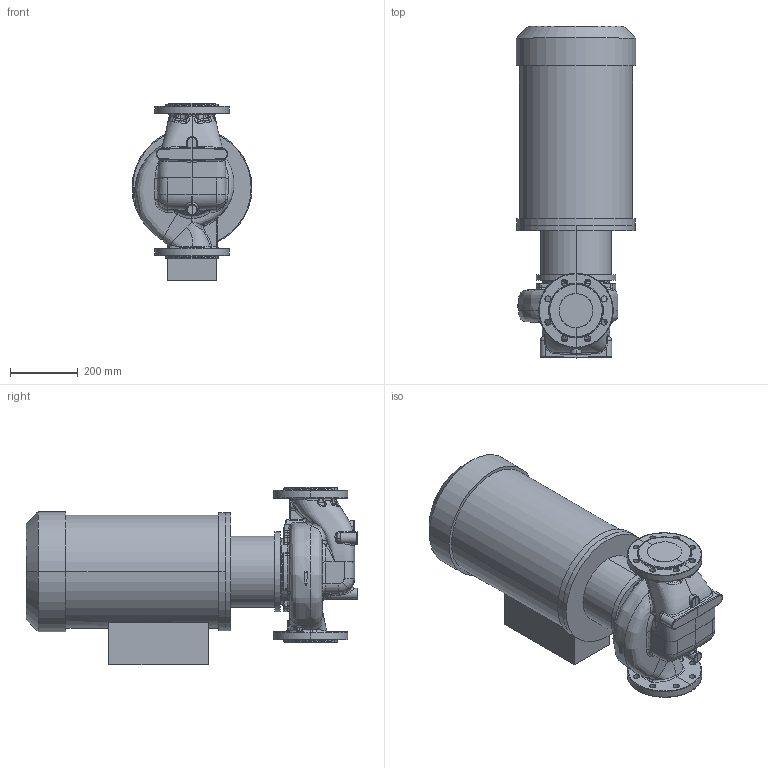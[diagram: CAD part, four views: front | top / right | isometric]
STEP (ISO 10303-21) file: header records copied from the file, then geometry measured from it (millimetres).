
FILE_DESCRIPTION (( 'STEP AP214' ), '1' );
FILE_NAME ('KRL 100-170-2-22.STEP', '2026-04-06T13:55:09', ( '' ), ( '' ), 'SwSTEP 2.0', 'SolidWorks 2016', '' );
FILE_SCHEMA (( 'AUTOMOTIVE_DESIGN' ));
Length unit declared in the file: millimetre
Products named in the file (1): KRL 100-170-2-22
Bounding box: 355 x 982.8 x 525 mm (x, y, z)
Volume: 79847899.1 mm3; surface area: 1857156.2 mm2
Topology: 4 solids, 4 shells, 668 faces, 1701 edges, 1010 vertices
Faces by surface type: bspline 330, cylinder 172, plane 114, cone 20, torus 16, sphere 16
Entity records: 62323 total; most frequent: CARTESIAN_POINT 42240, ORIENTED_EDGE 3338, DIRECTION 1787, EDGE_CURVE 1669, VERTEX_POINT 1010, AXIS2_PLACEMENT_3D 735, EDGE_LOOP 701, UNCERTAINTY_MEASURE_WITH_UNIT 674
